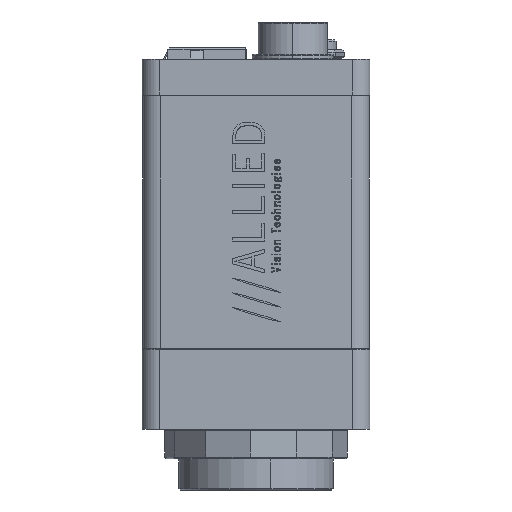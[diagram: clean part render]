
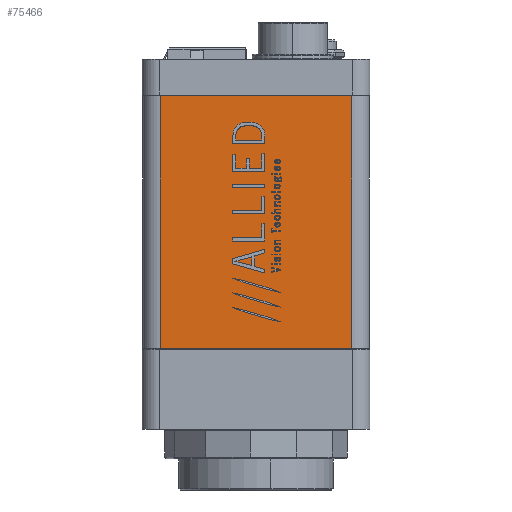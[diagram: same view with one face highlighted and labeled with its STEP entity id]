
A CAD part, left-side view. The second image highlights one B-rep face of the part: STEP entity #75466.
In plain terms, the highlighted planar face has unit normal (-1, 0, 0).
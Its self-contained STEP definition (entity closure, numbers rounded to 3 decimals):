
#2589 = EDGE_CURVE ( 'NONE', #13504, #196474, #197837, .T. ) ;
#4834 = VERTEX_POINT ( 'NONE', #44022 ) ;
#5083 = DIRECTION ( 'NONE',  ( 0., 0., 1. ) ) ;
#5792 = CARTESIAN_POINT ( 'NONE',  ( -25.714, -16.558, 108.336 ) ) ;
#7425 = CARTESIAN_POINT ( 'NONE',  ( -25.714, -16.558, 0. ) ) ;
#7616 = ORIENTED_EDGE ( 'NONE', *, *, #2589, .T. ) ;
#7717 = EDGE_CURVE ( 'NONE', #13504, #4834, #39039, .T. ) ;
#13504 = VERTEX_POINT ( 'NONE', #7425 ) ;
#22317 = DIRECTION ( 'NONE',  ( 0., -1., 0. ) ) ;
#31374 = DIRECTION ( 'NONE',  ( 0., 0., 1. ) ) ;
#32600 = CARTESIAN_POINT ( 'NONE',  ( -25.714, 16.558, 108.336 ) ) ;
#38532 = FACE_OUTER_BOUND ( 'NONE', #173910, .T. ) ;
#39039 = LINE ( 'NONE', #90126, #124995 ) ;
#41728 = DIRECTION ( 'NONE',  ( 0., 0., 1. ) ) ;
#41990 = DIRECTION ( 'NONE',  ( -1., 0., 0. ) ) ;
#42254 = CARTESIAN_POINT ( 'NONE',  ( -25.714, 16.558, 108.336 ) ) ;
#44022 = CARTESIAN_POINT ( 'NONE',  ( -25.714, 16.558, 0. ) ) ;
#44515 = PLANE ( 'NONE',  #193167 ) ;
#55362 = ORIENTED_EDGE ( 'NONE', *, *, #68362, .F. ) ;
#55771 = VECTOR ( 'NONE', #22317, 1000. ) ;
#60843 = LINE ( 'NONE', #103247, #55771 ) ;
#68362 = EDGE_CURVE ( 'NONE', #4834, #93119, #91566, .T. ) ;
#75466 = ADVANCED_FACE ( 'NONE', ( #38532 ), #44515, .T. ) ;
#75895 = VECTOR ( 'NONE', #5083, 1000. ) ;
#86539 = VECTOR ( 'NONE', #31374, 1000. ) ;
#89937 = DIRECTION ( 'NONE',  ( 0., 1., 0. ) ) ;
#90126 = CARTESIAN_POINT ( 'NONE',  ( -25.714, -16.558, 0. ) ) ;
#91566 = LINE ( 'NONE', #32600, #86539 ) ;
#93119 = VERTEX_POINT ( 'NONE', #158924 ) ;
#99625 = CARTESIAN_POINT ( 'NONE',  ( -25.714, -16.558, 43.65 ) ) ;
#103247 = CARTESIAN_POINT ( 'NONE',  ( -25.714, 16.558, 43.65 ) ) ;
#104642 = ORIENTED_EDGE ( 'NONE', *, *, #7717, .F. ) ;
#124995 = VECTOR ( 'NONE', #89937, 1000. ) ;
#158924 = CARTESIAN_POINT ( 'NONE',  ( -25.714, 16.558, 43.65 ) ) ;
#169671 = EDGE_CURVE ( 'NONE', #93119, #196474, #60843, .T. ) ;
#173910 = EDGE_LOOP ( 'NONE', ( #55362, #104642, #7616, #187509 ) ) ;
#187509 = ORIENTED_EDGE ( 'NONE', *, *, #169671, .F. ) ;
#193167 = AXIS2_PLACEMENT_3D ( 'NONE', #42254, #41990, #41728 ) ;
#196474 = VERTEX_POINT ( 'NONE', #99625 ) ;
#197837 = LINE ( 'NONE', #5792, #75895 ) ;
